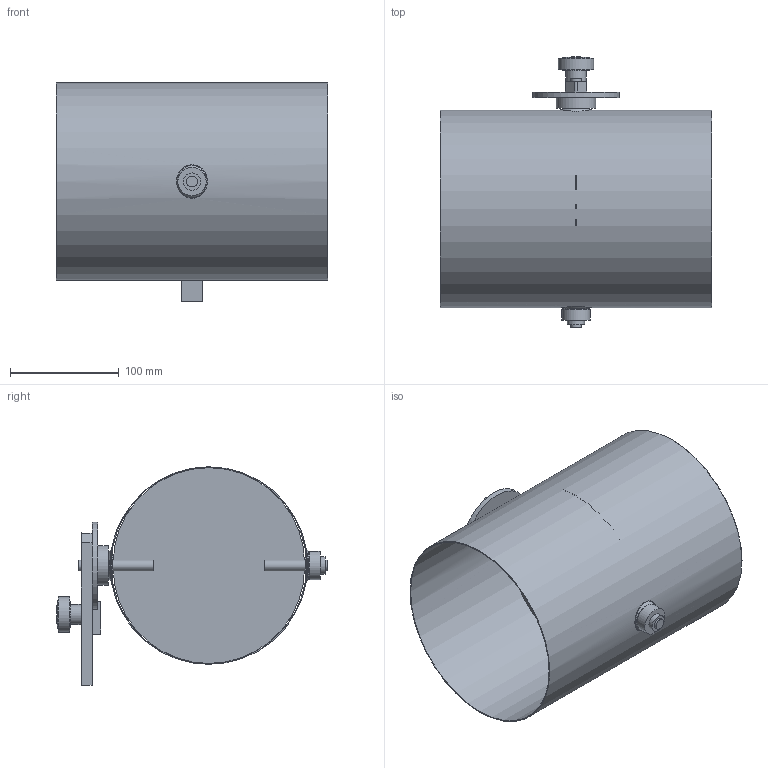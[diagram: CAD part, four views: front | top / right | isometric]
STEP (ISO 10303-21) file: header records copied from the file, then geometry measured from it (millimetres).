
FILE_DESCRIPTION(/* description */ (''),/* implementation_level */ '2;1');
FILE_NAME(/* name */ 'METU_Drosselklappe_glatt_verzinkt_AA126-80B__180_L250_handbetaetigt.stp',/* time_stamp */ '2022-04-22T14:29:24+02:00',/* author */ (''),/* organization */ (''),/* preprocessor_version */ 'ST-DEVELOPER v11',/* originating_system */ 'SIEMENS UGS NX 6.0',/* authorisation */ '');
FILE_SCHEMA (('CONFIG_CONTROL_DESIGN'));
Length unit declared in the file: millimetre
Products named in the file (1): d.ga332Aq91d
Bounding box: 250 x 248.97 x 200.8 mm (x, y, z)
Volume: 233118.7 mm3; surface area: 374844 mm2
Topology: 12 solids, 12 shells, 90 faces, 185 edges, 128 vertices
Faces by surface type: plane 44, cylinder 32, cone 4, bspline 4, torus 4, sphere 2
Full cylindrical faces by diameter (mm): 4.2 x1, 4.4 x4, 5 x1, 6 x1, 10 x5, 15 x3, 15.85 x2, 16 x2, 18.5 x1, 24 x2, 25 x1, 26 x1, 32.5 x1, 36 x1, 80 x1, 180 x1, 181.6 x1
Entity records: 2704 total; most frequent: CARTESIAN_POINT 921, DIRECTION 360, ORIENTED_EDGE 244, EDGE_LOOP 170, AXIS2_PLACEMENT_3D 159, FACE_BOUND 148, EDGE_CURVE 122, VERTEX_POINT 106
